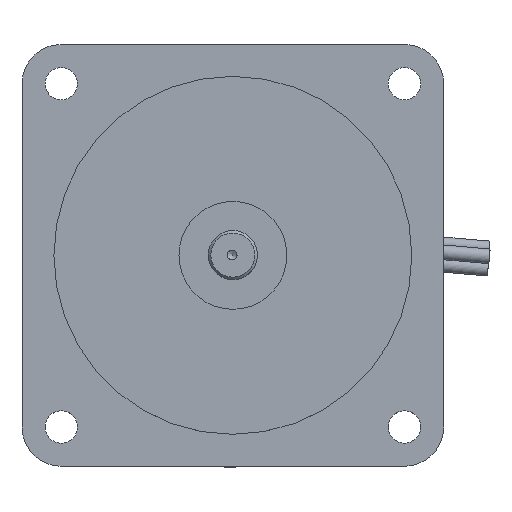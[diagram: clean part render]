
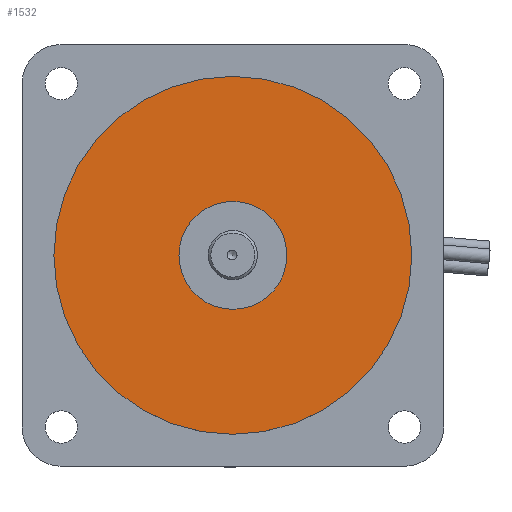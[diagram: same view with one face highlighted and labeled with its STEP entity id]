
A CAD part, top view. The second image highlights one B-rep face of the part: STEP entity #1532.
In plain terms, the highlighted planar face has unit normal (0, 0, 1).
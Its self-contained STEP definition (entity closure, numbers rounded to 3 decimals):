
#1461=CARTESIAN_POINT('',(-11.0,0.,54.5));
#1462=VERTEX_POINT('',#1461);
#1463=CARTESIAN_POINT('',(0.0,0.0,54.5));
#1464=DIRECTION('',(0.0,0.0,-1.0));
#1465=DIRECTION('',(1.0,0.0,0.0));
#1466=AXIS2_PLACEMENT_3D('',#1463,#1464,#1465);
#1467=CIRCLE('',#1466,11.0);
#1468=EDGE_CURVE('',#1462,#1462,#1467,.T.);
#1498=CARTESIAN_POINT('',(-36.5,0.,54.5));
#1499=VERTEX_POINT('',#1498);
#1500=CARTESIAN_POINT('',(0.0,0.0,54.5));
#1501=DIRECTION('',(0.0,0.0,-1.0));
#1502=DIRECTION('',(1.0,0.0,0.0));
#1503=AXIS2_PLACEMENT_3D('',#1500,#1501,#1502);
#1504=CIRCLE('',#1503,36.5);
#1505=EDGE_CURVE('',#1499,#1499,#1504,.T.);
#1521=CARTESIAN_POINT('',(0.0,0.0,54.5));
#1522=DIRECTION('',(0.0,0.0,-1.0));
#1523=DIRECTION('',(1.0,0.0,0.0));
#1524=AXIS2_PLACEMENT_3D('',#1521,#1522,#1523);
#1525=PLANE('',#1524);
#1526=ORIENTED_EDGE('',*,*,#1505,.F.);
#1527=EDGE_LOOP('',(#1526));
#1528=FACE_OUTER_BOUND('',#1527,.T.);
#1529=ORIENTED_EDGE('',*,*,#1468,.T.);
#1530=EDGE_LOOP('',(#1529));
#1531=FACE_BOUND('',#1530,.T.);
#1532=ADVANCED_FACE('',(#1528,#1531),#1525,.F.);
